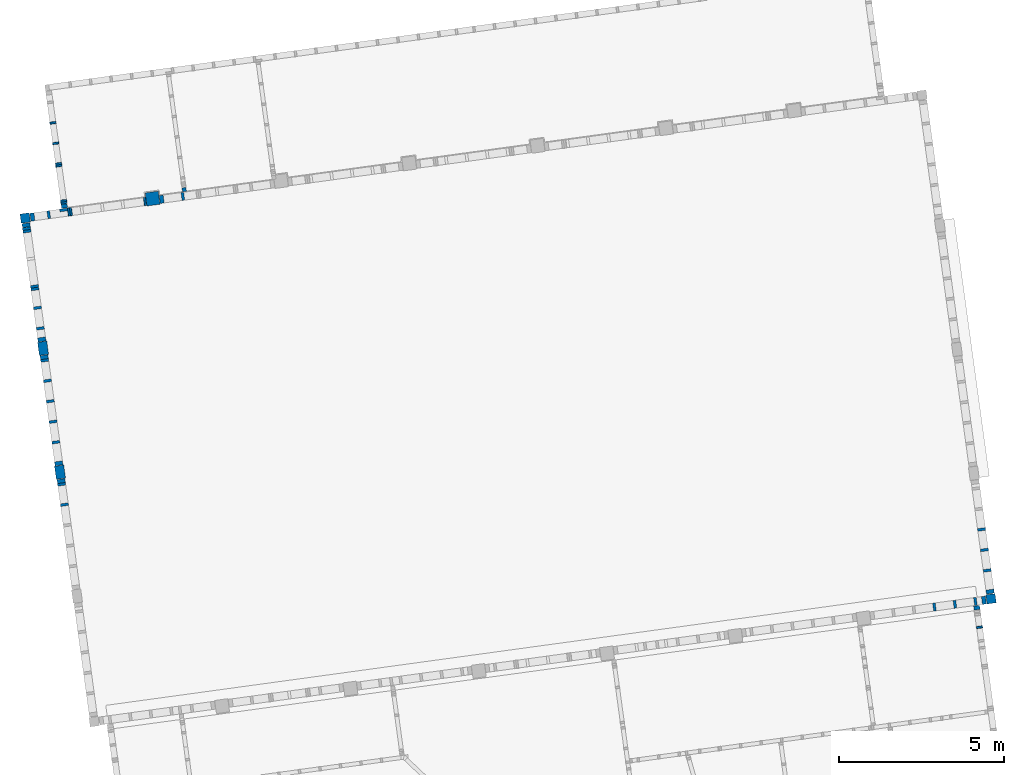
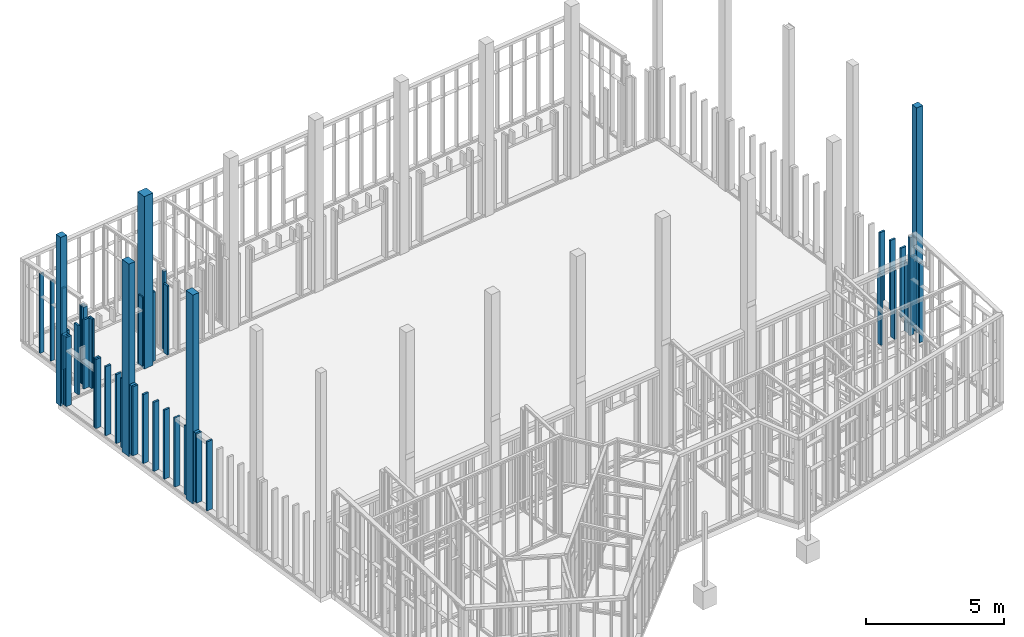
# One storey, part 5 of 24: 49 columns.
"""IFC2X3 building model written with IfcOpenShell, lengths in metres."""

from ifc_helpers import new_model, entity, si_unit, converted_unit, derived_unit, money_unit, direction, frame, origin_with_axes, origin_2d_with_axis, place, context, subcontext, project, spatial, rectangle, extrude, material, type_object, element, save


model = new_model("IFC2X3")

# Units and contexts
model_context = context("Model", 3, precision=1e-05, world=origin_with_axes(), true_north=direction((0.0, 1.0)))
body_context = subcontext(model_context, "Body", "Model", "MODEL_VIEW")
ifc_project = project(units=[si_unit("LENGTHUNIT", "METRE"), si_unit("AREAUNIT", "SQUARE_METRE"), si_unit("VOLUMEUNIT", "CUBIC_METRE"), converted_unit("PLANEANGLEUNIT", "DEGREE", entity("IfcPlaneAngleMeasure", 0.0174532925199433), si_unit("PLANEANGLEUNIT", "RADIAN"), dimensions=[0, 0, 0, 0, 0, 0, 0]), money_unit("EUR"), converted_unit("TIMEUNIT", "Year", entity("IfcTimeMeasure", 31557600.0), si_unit("TIMEUNIT", "SECOND"), dimensions=[0, 0, 1, 0, 0, 0, 0]), si_unit("MASSUNIT", "GRAM", prefix="KILO"), si_unit("THERMODYNAMICTEMPERATUREUNIT", "DEGREE_CELSIUS"), si_unit("LUMINOUSINTENSITYUNIT", "LUMEN"), si_unit("ENERGYUNIT", "JOULE", prefix="MEGA"), derived_unit("THERMALCONDUCTANCEUNIT", [(si_unit("POWERUNIT", "WATT"), 1), (si_unit("LENGTHUNIT", "METRE"), -1), (si_unit("THERMODYNAMICTEMPERATUREUNIT", "KELVIN"), -1)]), derived_unit("SPECIFICHEATCAPACITYUNIT", [(si_unit("ENERGYUNIT", "JOULE"), 1), (si_unit("MASSUNIT", "GRAM", prefix="KILO"), -1), (si_unit("THERMODYNAMICTEMPERATUREUNIT", "KELVIN"), -1)]), derived_unit("MASSDENSITYUNIT", [(si_unit("MASSUNIT", "GRAM", prefix="KILO"), 1), (si_unit("VOLUMEUNIT", "CUBIC_METRE"), -1)])], contexts=[model_context])

# Site, building, storey
site_placement = place(None, origin_with_axes())
site = spatial("IfcSite", under=ifc_project, at=site_placement, Name="Gelände", CompositionType="ELEMENT")
building_placement = place(site_placement, origin_with_axes())
building = spatial("IfcBuilding", under=site, at=building_placement, Name="Gebäude", CompositionType="ELEMENT")
storey_placement = place(building_placement, origin_with_axes())
storey = spatial("IfcBuildingStorey", under=building, at=storey_placement, Name="EG", CompositionType="ELEMENT", Elevation=0.0)

# Columns
ifc_material_1 = material(Name="Holz, Brettschichtholz")
column_type_1 = type_object("IfcColumnType", Name="Holz, Brettschichtholz 400 x 400", PredefinedType="NOTDEFINED")
column_1_placement = place(storey_placement, frame((88.35817938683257, -135.2051121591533, -0.168000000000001), z_axis=(0.0, 0.0, 1.0), x_axis=(-0.9907484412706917, -0.1357111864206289, 0.0)))
element("IfcColumn", 1, at=column_1_placement, inside=storey, type_object=column_type_1, material=ifc_material_1, Name="Stütze-011", context=body_context, shape_type="SweptSolid", body=[
    extrude(rectangle(XDim=0.4, YDim=0.4, at=origin_2d_with_axis()), frame((0.0, 0.0, 0.0), z_axis=(0.0, 0.0, -1.0), x_axis=(-1.0, 0.0, 0.0)), (0.0, 0.0, -1.0), 7.634011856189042),
])
column_type_2 = type_object("IfcColumnType", Name="Holz, Brettschichtholz 280 x 400", PredefinedType="NOTDEFINED")
column_2_placement = place(storey_placement, frame((85.04738081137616, -139.7302895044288, -0.1680000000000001), z_axis=(0.0, 0.0, 1.0), x_axis=(-0.9907484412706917, -0.1357111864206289, 0.0)))
element("IfcColumn", 2, at=column_2_placement, inside=storey, type_object=column_type_2, material=ifc_material_1, Name="Stütze-011", context=body_context, shape_type="SweptSolid", body=[
    extrude(rectangle(XDim=0.28, YDim=0.4, at=origin_2d_with_axis()), frame((0.0, 0.0, 0.0), z_axis=(0.0, 0.0, -1.0), x_axis=(-1.0, 0.0, 0.0)), (0.0, 0.0, -1.0), 8.520027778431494),
])
column_3_placement = place(storey_placement, frame((85.56036909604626, -143.475318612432, -0.1680000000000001), z_axis=(0.0, 0.0, 1.0), x_axis=(-0.9907484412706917, -0.1357111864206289, 0.0)))
element("IfcColumn", 3, at=column_3_placement, inside=storey, type_object=column_type_2, material=ifc_material_1, Name="Stütze-011", context=body_context, shape_type="SweptSolid", body=[
    extrude(rectangle(XDim=0.28, YDim=0.4, at=origin_2d_with_axis()), frame((0.0, 0.0, 0.0), z_axis=(0.0, 0.0, -1.0), x_axis=(-1.0, 0.0, 0.0)), (0.0, 0.0, -1.0), 9.241834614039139),
])
ifc_material_2 = material(Name="Bauholz")
column_type_3 = type_object("IfcColumnType", Name="Bauholz 80 x 240", PredefinedType="NOTDEFINED")
for number, where, z_axis, x_axis in (
    (4, (85.34939237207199, -141.949837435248, -0.02800000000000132), (0.0, 0.0, 1.0), (0.1357111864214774, -0.9907484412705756, 0.0)),
    (5, (85.43421186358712, -142.5690552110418, -0.02800000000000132), (0.0, 0.0, 1.0), (0.1357111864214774, -0.9907484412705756, 0.0)),
    (6, (85.17975338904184, -140.7114018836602, -0.02800000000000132), (0.0, 0.0, 1.0), (0.1357111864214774, -0.9907484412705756, 0.0)),
):
    element("IfcColumn", number, at=place(storey_placement, frame(where, z_axis=z_axis, x_axis=x_axis)), inside=storey, type_object=column_type_3, material=ifc_material_2, Name="Stütze-018", context=body_context, shape_type="SweptSolid", body=[
        extrude(rectangle(XDim=0.08, YDim=0.24, at=origin_2d_with_axis()), origin_with_axes(), (0.0, 0.0, 1.0), 3.059999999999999),
    ])
for number, where, z_axis, x_axis in (
    (7, (113.4997803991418, -145.8253695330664, -0.02800000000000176), (0.0, 0.0, 1.0), (0.1357111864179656, -0.9907484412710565, 0.0)),
    (8, (113.5845998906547, -146.4445873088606, -0.02800000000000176), (0.0, 0.0, 1.0), (0.1357111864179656, -0.9907484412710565, 0.0)),
):
    element("IfcColumn", number, at=place(storey_placement, frame(where, z_axis=z_axis, x_axis=x_axis)), inside=storey, type_object=column_type_3, material=ifc_material_2, Name="Stütze-018", context=body_context, shape_type="SweptSolid", body=[
        extrude(rectangle(XDim=0.08, YDim=0.24, at=origin_2d_with_axis()), origin_with_axes(), (0.0, 0.0, 1.0), 3.059999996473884),
    ])
for number, where, z_axis, x_axis in (
    (9, (111.9886899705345, -147.5509053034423, -0.0280000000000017), (0.0, 0.0, 1.0), (0.9907484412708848, 0.1357111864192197, 0.0)),
    (10, (112.6079077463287, -147.4660858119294, -0.0280000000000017), (0.0, 0.0, 1.0), (0.9907484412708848, 0.1357111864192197, 0.0)),
    (11, (113.2271255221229, -147.3812663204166, -0.0280000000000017), (0.0, 0.0, 1.0), (0.9907484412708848, 0.1357111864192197, 0.0)),
):
    element("IfcColumn", number, at=place(storey_placement, frame(where, z_axis=z_axis, x_axis=x_axis)), inside=storey, type_object=column_type_3, material=ifc_material_2, Name="Stütze-018", context=body_context, shape_type="SweptSolid", body=[
        extrude(rectangle(XDim=0.08, YDim=0.24, at=origin_2d_with_axis()), origin_with_axes(), (0.0, 0.0, 1.0), 3.059999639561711),
    ])
for number, where, z_axis, x_axis in (
    (12, (85.22042433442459, -135.6934585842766, -0.0280000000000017), (0.0, 0.0, 1.0), (0.9907484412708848, 0.1357111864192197, 0.0)),
    (13, (89.27258617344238, -135.1383997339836, -0.0280000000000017), (0.0, 0.0, 1.0), (0.9907484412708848, 0.1357111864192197, 0.0)),
):
    element("IfcColumn", number, at=place(storey_placement, frame(where, z_axis=z_axis, x_axis=x_axis)), inside=storey, type_object=column_type_3, material=ifc_material_2, Name="Stütze-018", context=body_context, shape_type="SweptSolid", body=[
        extrude(rectangle(XDim=0.08, YDim=0.24, at=origin_2d_with_axis()), origin_with_axes(), (0.0, 0.0, 1.0), 3.06),
    ])
column_4_placement = place(storey_placement, frame((85.26457288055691, -141.3306196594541, -0.02800000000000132), z_axis=(0.0, 0.0, 1.0), x_axis=(0.1357111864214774, -0.9907484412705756, 0.0)))
element("IfcColumn", 14, at=column_4_placement, inside=storey, type_object=column_type_3, material=ifc_material_2, Name="Stütze-018", context=body_context, shape_type="SweptSolid", body=[
    extrude(rectangle(XDim=0.08, YDim=0.24, at=origin_2d_with_axis()), origin_with_axes(), (0.0, 0.0, 1.0), 3.059999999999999),
])
for number, where, z_axis, x_axis in (
    (15, (84.96275120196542, -139.1271951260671, -0.02800000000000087), (0.0, 0.0, 1.0), (-0.1357111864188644, 0.9907484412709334, 0.0)),
    (16, (84.87793171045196, -138.507977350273, -0.02800000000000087), (0.0, 0.0, 1.0), (-0.1357111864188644, 0.9907484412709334, 0.0)),
):
    element("IfcColumn", number, at=place(storey_placement, frame(where, z_axis=z_axis, x_axis=x_axis)), inside=storey, type_object=column_type_3, material=ifc_material_2, Name="Stütze-018", context=body_context, shape_type="SweptSolid", body=[
        extrude(rectangle(XDim=0.08, YDim=0.24, at=origin_2d_with_axis()), origin_with_axes(), (0.0, 0.0, 1.0), 3.059999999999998),
    ])
column_5_placement = place(storey_placement, frame((113.4149609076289, -145.2061517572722, -0.02800000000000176), z_axis=(0.0, 0.0, 1.0), x_axis=(0.1357111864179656, -0.9907484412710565, 0.0)))
element("IfcColumn", 17, at=column_5_placement, inside=storey, type_object=column_type_3, material=ifc_material_2, Name="Stütze-018", context=body_context, shape_type="SweptSolid", body=[
    extrude(rectangle(XDim=0.08, YDim=0.24, at=origin_2d_with_axis()), origin_with_axes(), (0.0, 0.0, 1.0), 3.059999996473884),
])
column_6_placement = place(storey_placement, frame((85.09561245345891, -140.097137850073, -0.02800000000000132), z_axis=(0.0, 0.0, 1.0), x_axis=(0.1357111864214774, -0.9907484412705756, 0.0)))
element("IfcColumn", 18, at=column_6_placement, inside=storey, type_object=column_type_3, material=ifc_material_2, Name="Stütze-018", context=body_context, shape_type="SweptSolid", body=[
    extrude(rectangle(XDim=0.08, YDim=0.24, at=origin_2d_with_axis()), origin_with_axes(), (0.0, 0.0, 1.0), 3.059999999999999),
])
column_7_placement = place(storey_placement, frame((85.6702654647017, -135.5510930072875, -0.0280000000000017), z_axis=(0.0, 0.0, 1.0), x_axis=(0.1357111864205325, -0.9907484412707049, 0.0)))
element("IfcColumn", 19, at=column_7_placement, inside=storey, type_object=column_type_3, material=ifc_material_2, Name="Stütze-018", context=body_context, shape_type="SweptSolid", body=[
    extrude(rectangle(XDim=0.08, YDim=0.24, at=origin_2d_with_axis()), origin_with_axes(), (0.0, 0.0, 1.0), 3.06),
])
for number, where, z_axis, x_axis in (
    (20, (84.7889051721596, -137.8580463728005, -0.02800000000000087), (0.0, 0.0, 1.0), (-0.1357111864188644, 0.9907484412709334, 0.0)),
    (21, (84.55005348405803, -136.1143291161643, -0.02800000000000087), (0.0, 0.0, 1.0), (-0.1357111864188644, 0.9907484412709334, 0.0)),
    (22, (84.5609103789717, -136.1935889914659, -0.02800000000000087), (0.0, 0.0, 1.0), (-0.1357111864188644, 0.9907484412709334, 0.0)),
    (23, (84.79976206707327, -137.9373062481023, -0.02800000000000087), (0.0, 0.0, 1.0), (-0.1357111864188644, 0.9907484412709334, 0.0)),
):
    element("IfcColumn", number, at=place(storey_placement, frame(where, z_axis=z_axis, x_axis=x_axis)), inside=storey, type_object=column_type_3, material=ifc_material_2, Name="Stütze-018", context=body_context, shape_type="SweptSolid", body=[
        extrude(rectangle(XDim=0.08, YDim=0.24, at=origin_2d_with_axis()), origin_with_axes(), (0.0, 0.0, 1.0), 3.059999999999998),
    ])
for number, where, z_axis, x_axis in (
    (24, (85.69274167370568, -144.4564309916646, -0.02800000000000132), (0.0, 0.0, 1.0), (0.1357111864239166, -0.9907484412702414, 0.0)),
    (25, (85.60860073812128, -143.8421669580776, -0.02800000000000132), (0.0, 0.0, 1.0), (0.1357111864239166, -0.9907484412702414, 0.0)),
):
    element("IfcColumn", number, at=place(storey_placement, frame(where, z_axis=z_axis, x_axis=x_axis)), inside=storey, type_object=column_type_3, material=ifc_material_2, Name="Stütze-018", context=body_context, shape_type="SweptSolid", body=[
        extrude(rectangle(XDim=0.08, YDim=0.24, at=origin_2d_with_axis()), origin_with_axes(), (0.0, 0.0, 1.0), 3.059999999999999),
    ])
column_type_4 = type_object("IfcColumnType", Name="Bauholz 60 x 180", PredefinedType="NOTDEFINED")
column_8_placement = place(storey_placement, frame((113.3509671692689, -148.1616796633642, -0.04299999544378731), z_axis=(0.0, 0.0, 1.0), x_axis=(-0.1357111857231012, 0.9907484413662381, 0.0)))
element("IfcColumn", 26, at=column_8_placement, inside=storey, type_object=column_type_4, material=ifc_material_2, Name="Stütze-018", context=body_context, shape_type="SweptSolid", body=[
    extrude(rectangle(XDim=0.06, YDim=0.18, at=origin_2d_with_axis()), frame((0.0, 0.0, 0.0), z_axis=(0.0, 0.0, -1.0), x_axis=(-1.0, 0.0, 0.0)), (0.0, 0.0, -1.0), 3.510928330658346),
])
column_9_placement = place(storey_placement, frame((85.66863967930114, -135.2737477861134, 0.04999999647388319), z_axis=(0.0, 0.0, 1.0), x_axis=(0.1357111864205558, -0.9907484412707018, 0.0)))
element("IfcColumn", 27, at=column_9_placement, inside=storey, type_object=column_type_4, material=ifc_material_2, Name="Stütze-018", context=body_context, shape_type="SweptSolid", body=[
    extrude(rectangle(XDim=0.06, YDim=0.18, at=origin_2d_with_axis()), origin_with_axes(), (0.0, 0.0, 1.0), 3.461949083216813),
])
column_10_placement = place(storey_placement, frame((85.5234286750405, -134.2136469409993, 0.04999999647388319), z_axis=(0.0, 0.0, 1.0), x_axis=(0.1357111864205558, -0.9907484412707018, 0.0)))
element("IfcColumn", 28, at=column_10_placement, inside=storey, type_object=column_type_4, material=ifc_material_2, Name="Stütze-018", context=body_context, shape_type="SweptSolid", body=[
    extrude(rectangle(XDim=0.06, YDim=0.18, at=origin_2d_with_axis()), origin_with_axes(), (0.0, 0.0, 1.0), 3.590069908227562),
])
column_11_placement = place(storey_placement, frame((85.51528600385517, -134.1542020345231, 0.04999999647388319), z_axis=(0.0, 0.0, 1.0), x_axis=(0.1357111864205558, -0.9907484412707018, 0.0)))
element("IfcColumn", 29, at=column_11_placement, inside=storey, type_object=column_type_4, material=ifc_material_2, Name="Stütze-018", context=body_context, shape_type="SweptSolid", body=[
    extrude(rectangle(XDim=0.06, YDim=0.18, at=origin_2d_with_axis()), origin_with_axes(), (0.0, 0.0, 1.0), 3.586925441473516),
])
column_12_placement = place(storey_placement, frame((85.34564705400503, -132.9157664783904, 0.04999997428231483), z_axis=(0.0, 0.0, 1.0), x_axis=(0.1357111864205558, -0.9907484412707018, 0.0)))
element("IfcColumn", 30, at=column_12_placement, inside=storey, type_object=column_type_4, material=ifc_material_2, Name="Stütze-018", context=body_context, shape_type="SweptSolid", body=[
    extrude(rectangle(XDim=0.06, YDim=0.18, at=origin_2d_with_axis()), origin_with_axes(), (0.0, 0.0, 1.0), 3.521415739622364),
])
column_13_placement = place(storey_placement, frame((85.43046654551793, -133.5349842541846, 0.04999997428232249), z_axis=(0.0, 0.0, 1.0), x_axis=(0.1357111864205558, -0.9907484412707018, 0.0)))
element("IfcColumn", 31, at=column_13_placement, inside=storey, type_object=column_type_4, material=ifc_material_2, Name="Stütze-018", context=body_context, shape_type="SweptSolid", body=[
    extrude(rectangle(XDim=0.06, YDim=0.18, at=origin_2d_with_axis()), origin_with_axes(), (0.0, 0.0, 1.0), 3.554170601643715),
])
column_14_placement = place(storey_placement, frame((85.67678235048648, -135.3331926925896, 0.04999999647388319), z_axis=(0.0, 0.0, 1.0), x_axis=(0.1357111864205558, -0.9907484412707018, 0.0)))
element("IfcColumn", 32, at=column_14_placement, inside=storey, type_object=column_type_4, material=ifc_material_2, Name="Stütze-018", context=body_context, shape_type="SweptSolid", body=[
    extrude(rectangle(XDim=0.06, YDim=0.18, at=origin_2d_with_axis()), origin_with_axes(), (0.0, 0.0, 1.0), 3.461949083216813),
])
column_type_5 = type_object("IfcColumnType", Name="Bauholz 120 x 240", PredefinedType="NOTDEFINED")
column_15_placement = place(storey_placement, frame((113.6721336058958, -147.0836200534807, -0.02800000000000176), z_axis=(0.0, 0.0, 1.0), x_axis=(0.1357111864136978, -0.9907484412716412, 0.0)))
element("IfcColumn", 33, at=column_15_placement, inside=storey, type_object=column_type_5, material=ifc_material_2, Name="Stütze-018", context=body_context, shape_type="SweptSolid", body=[
    extrude(rectangle(XDim=0.12, YDim=0.24, at=origin_2d_with_axis()), origin_with_axes(), (0.0, 0.0, 1.0), 3.059999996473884),
])
for number, where, z_axis, x_axis in (
    (34, (85.08204133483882, -139.9980630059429, -0.02800000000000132), (0.0, 0.0, 1.0), (0.1357111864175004, -0.9907484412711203, 0.0)),
    (35, (85.52174557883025, -143.2080879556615, -0.02800000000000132), (0.0, 0.0, 1.0), (0.1357111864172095, -0.9907484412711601, 0.0)),
):
    element("IfcColumn", number, at=place(storey_placement, frame(where, z_axis=z_axis, x_axis=x_axis)), inside=storey, type_object=column_type_5, material=ifc_material_2, Name="Stütze-018", context=body_context, shape_type="SweptSolid", body=[
        extrude(rectangle(XDim=0.12, YDim=0.24, at=origin_2d_with_axis()), origin_with_axes(), (0.0, 0.0, 1.0), 3.059999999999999),
    ])
column_16_placement = place(storey_placement, frame((113.4840113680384, -147.3460784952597, -0.02800000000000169), z_axis=(0.0, 0.0, 1.0), x_axis=(0.9907484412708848, 0.1357111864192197, 0.0)))
element("IfcColumn", 36, at=column_16_placement, inside=storey, type_object=column_type_5, material=ifc_material_2, Name="Stütze-018", context=body_context, shape_type="SweptSolid", body=[
    extrude(rectangle(XDim=0.1200007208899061, YDim=0.24, at=origin_2d_with_axis()), origin_with_axes(), (0.0, 0.0, 1.0), 3.059999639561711),
])
column_17_placement = place(storey_placement, frame((84.72575814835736, -135.7612171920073, -0.02800000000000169), z_axis=(0.0, 0.0, 1.0), x_axis=(0.9907484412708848, 0.1357111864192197, 0.0)))
element("IfcColumn", 37, at=column_17_placement, inside=storey, type_object=column_type_5, material=ifc_material_2, Name="Stütze-018", context=body_context, shape_type="SweptSolid", body=[
    extrude(rectangle(XDim=0.1200007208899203, YDim=0.24, at=origin_2d_with_axis()), origin_with_axes(), (0.0, 0.0, 1.0), 3.06),
])
column_18_placement = place(storey_placement, frame((88.63355307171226, -135.2259334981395, -0.02800000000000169), z_axis=(0.0, 0.0, 1.0), x_axis=(0.9907484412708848, 0.1357111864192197, 0.0)))
element("IfcColumn", 38, at=column_18_placement, inside=storey, type_object=column_type_5, material=ifc_material_2, Name="Stütze-018", context=body_context, shape_type="SweptSolid", body=[
    extrude(rectangle(XDim=0.1200007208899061, YDim=0.24, at=origin_2d_with_axis()), origin_with_axes(), (0.0, 0.0, 1.0), 3.06),
])
for number, where, z_axis, x_axis in (
    (39, (84.53593952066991, -136.0112912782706, -0.02800000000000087), (0.0, 0.0, 1.0), (-0.1357111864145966, 0.9907484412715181, 0.0)),
    (40, (85.00875729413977, -139.4630588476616, -0.02800000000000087), (0.0, 0.0, 1.0), (-0.1357111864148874, 0.9907484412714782, 0.0)),
):
    element("IfcColumn", number, at=place(storey_placement, frame(where, z_axis=z_axis, x_axis=x_axis)), inside=storey, type_object=column_type_5, material=ifc_material_2, Name="Stütze-018", context=body_context, shape_type="SweptSolid", body=[
        extrude(rectangle(XDim=0.12, YDim=0.24, at=origin_2d_with_axis()), origin_with_axes(), (0.0, 0.0, 1.0), 3.059999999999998),
    ])
column_19_placement = place(storey_placement, frame((85.59502961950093, -143.7430921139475, -0.02800000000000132), z_axis=(0.0, 0.0, 1.0), x_axis=(0.1357111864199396, -0.9907484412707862, 0.0)))
element("IfcColumn", 41, at=column_19_placement, inside=storey, type_object=column_type_5, material=ifc_material_2, Name="Stütze-018", context=body_context, shape_type="SweptSolid", body=[
    extrude(rectangle(XDim=0.12, YDim=0.24, at=origin_2d_with_axis()), origin_with_axes(), (0.0, 0.0, 1.0), 3.059999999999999),
])
column_type_6 = type_object("IfcColumnType", Name="Bauholz 120 x 180", PredefinedType="NOTDEFINED")
column_20_placement = place(storey_placement, frame((113.2702189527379, -147.5721845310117, -0.0429999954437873), z_axis=(0.0, 0.0, 1.0), x_axis=(-0.1357111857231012, 0.9907484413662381, 0.0)))
element("IfcColumn", 42, at=column_20_placement, inside=storey, type_object=column_type_6, material=ifc_material_2, Name="Stütze-018", context=body_context, shape_type="SweptSolid", body=[
    extrude(rectangle(XDim=0.1200003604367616, YDim=0.18, at=origin_2d_with_axis()), frame((0.0, 0.0, 0.0), z_axis=(0.0, 0.0, -1.0), x_axis=(-1.0, 0.0, 0.0)), (0.0, 0.0, -1.0), 4.339648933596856),
])
column_21_placement = place(storey_placement, frame((85.69035345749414, -135.4322675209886, 0.04999999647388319), z_axis=(0.0, 0.0, 1.0), x_axis=(0.1357111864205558, -0.9907484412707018, 0.0)))
element("IfcColumn", 43, at=column_21_placement, inside=storey, type_object=column_type_6, material=ifc_material_2, Name="Stütze-018", context=body_context, shape_type="SweptSolid", body=[
    extrude(rectangle(XDim=0.12, YDim=0.18, at=origin_2d_with_axis()), origin_with_axes(), (0.0, 0.0, 1.0), 3.461949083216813),
])
column_type_7 = type_object("IfcColumnType", Name="Holz, Brettschichtholz 280 x 280", PredefinedType="NOTDEFINED")
column_22_placement = place(storey_placement, frame((113.7000085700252, -147.3018561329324, -0.1680000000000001), z_axis=(0.0, 0.0, 1.0), x_axis=(-0.9907484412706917, -0.1357111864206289, 0.0)))
element("IfcColumn", 44, at=column_22_placement, inside=storey, type_object=column_type_7, material=ifc_material_1, Name="Stütze-011", context=body_context, shape_type="SweptSolid", body=[
    extrude(rectangle(XDim=0.28, YDim=0.28, at=origin_2d_with_axis()), frame((0.0, 0.0, 0.0), z_axis=(0.0, 0.0, -1.0), x_axis=(-1.0, 0.0, 0.0)), (0.0, 0.0, -1.0), 9.961443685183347),
])
column_23_placement = place(storey_placement, frame((84.50806455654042, -135.7930551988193, -0.168000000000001), z_axis=(0.0, 0.0, 1.0), x_axis=(-0.9907484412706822, -0.1357111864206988, 0.0)))
element("IfcColumn", 45, at=column_23_placement, inside=storey, type_object=column_type_7, material=ifc_material_1, Name="Stütze-011", context=body_context, shape_type="SweptSolid", body=[
    extrude(rectangle(XDim=0.28, YDim=0.28, at=origin_2d_with_axis()), origin_with_axes(), (0.0, 0.0, 1.0), 7.46925940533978),
])
column_type_8 = type_object("IfcColumnType", Name="Bauholz 120 x 120", PredefinedType="NOTDEFINED")
column_24_placement = place(storey_placement, frame((89.3141288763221, -134.9358880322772, 0.04999999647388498), z_axis=(0.0, 0.0, 1.0), x_axis=(-0.1357111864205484, 0.9907484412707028, 0.0)))
element("IfcColumn", 46, at=column_24_placement, inside=storey, type_object=column_type_8, material=ifc_material_2, Name="Stütze-018", context=body_context, shape_type="SweptSolid", body=[
    extrude(rectangle(XDim=0.1200007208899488, YDim=0.12, at=origin_2d_with_axis()), frame((0.0, 0.0, 0.0), z_axis=(0.0, 0.0, -1.0), x_axis=(-1.0, 0.0, 0.0)), (0.0, 0.0, -1.0), 3.461949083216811),
])
column_type_9 = type_object("IfcColumnType", Name="Bauholz 60 x 240", PredefinedType="NOTDEFINED")
for number, where, z_axis, x_axis in (
    (47, (85.82973462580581, -135.6099962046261, -0.0280000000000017), (0.0, 0.0, 1.0), (0.9907484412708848, 0.1357111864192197, 0.0)),
    (48, (85.88917953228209, -135.6018535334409, -0.0280000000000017), (0.0, 0.0, 1.0), (0.9907484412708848, 0.1357111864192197, 0.0)),
    (49, (88.12827100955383, -135.2951462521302, -0.0280000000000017), (0.0, 0.0, 1.0), (0.9907484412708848, 0.1357111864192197, 0.0)),
):
    element("IfcColumn", number, at=place(storey_placement, frame(where, z_axis=z_axis, x_axis=x_axis)), inside=storey, type_object=column_type_9, material=ifc_material_2, Name="Stütze-018", context=body_context, shape_type="SweptSolid", body=[
        extrude(rectangle(XDim=0.06, YDim=0.24, at=origin_2d_with_axis()), origin_with_axes(), (0.0, 0.0, 1.0), 3.06),
    ])

save(model, "model.ifc")
